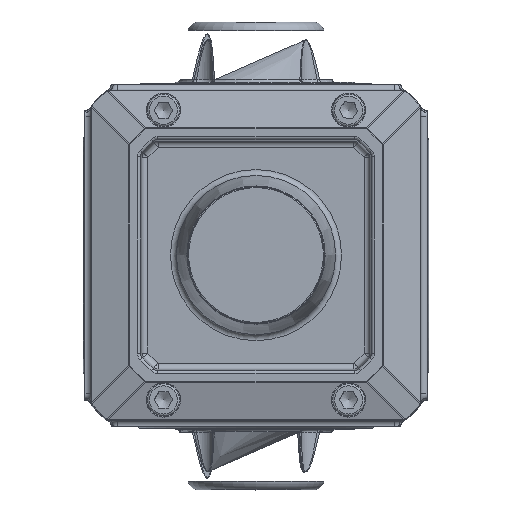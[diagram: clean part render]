
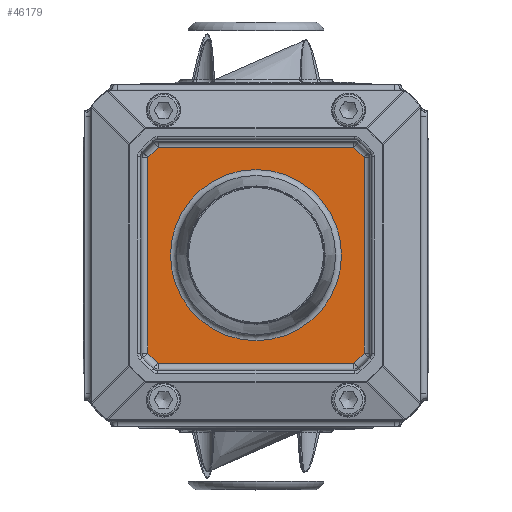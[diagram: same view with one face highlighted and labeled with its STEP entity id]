
A CAD part, top view. The second image highlights one B-rep face of the part: STEP entity #46179.
In plain terms, the highlighted planar face has unit normal (0, 0, 1).
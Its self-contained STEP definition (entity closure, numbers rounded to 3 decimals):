
#590=FACE_BOUND('',#15095,.T.);
#1894=PLANE('',#50499);
#3952=LINE('',#129169,#6474);
#3954=LINE('',#129179,#6476);
#3956=LINE('',#129189,#6478);
#3958=LINE('',#129199,#6480);
#3960=LINE('',#129206,#6482);
#3961=LINE('',#129212,#6483);
#3962=LINE('',#129218,#6484);
#3963=LINE('',#129220,#6485);
#6474=VECTOR('',#60857,10.);
#6476=VECTOR('',#60869,10.);
#6478=VECTOR('',#60881,10.);
#6480=VECTOR('',#60893,10.);
#6482=VECTOR('',#60903,10.);
#6483=VECTOR('',#60912,10.);
#6484=VECTOR('',#60921,10.);
#6485=VECTOR('',#60924,10.);
#8887=CIRCLE('',#50500,42.517);
#12312=FACE_OUTER_BOUND('',#15094,.T.);
#15094=EDGE_LOOP('',(#37717,#37718,#37719,#37720,#37721,#37722,#37723,#37724));
#15095=EDGE_LOOP('',(#37725));
#20275=VERTEX_POINT('',#129159);
#20276=VERTEX_POINT('',#129163);
#20278=VERTEX_POINT('',#129171);
#20281=VERTEX_POINT('',#129181);
#20284=VERTEX_POINT('',#129191);
#20287=VERTEX_POINT('',#129201);
#20288=VERTEX_POINT('',#129208);
#20289=VERTEX_POINT('',#129214);
#20290=VERTEX_POINT('',#129222);
#26204=EDGE_CURVE('',#20275,#20276,#3952,.T.);
#26209=EDGE_CURVE('',#20276,#20278,#3954,.T.);
#26214=EDGE_CURVE('',#20278,#20281,#3956,.T.);
#26219=EDGE_CURVE('',#20281,#20284,#3958,.T.);
#26223=EDGE_CURVE('',#20284,#20287,#3960,.T.);
#26226=EDGE_CURVE('',#20287,#20288,#3961,.T.);
#26229=EDGE_CURVE('',#20288,#20289,#3962,.T.);
#26230=EDGE_CURVE('',#20289,#20275,#3963,.T.);
#26231=EDGE_CURVE('',#20290,#20290,#8887,.T.);
#37717=ORIENTED_EDGE('',*,*,#26230,.F.);
#37718=ORIENTED_EDGE('',*,*,#26229,.F.);
#37719=ORIENTED_EDGE('',*,*,#26226,.F.);
#37720=ORIENTED_EDGE('',*,*,#26223,.F.);
#37721=ORIENTED_EDGE('',*,*,#26219,.F.);
#37722=ORIENTED_EDGE('',*,*,#26214,.F.);
#37723=ORIENTED_EDGE('',*,*,#26209,.F.);
#37724=ORIENTED_EDGE('',*,*,#26204,.F.);
#37725=ORIENTED_EDGE('',*,*,#26231,.F.);
#46179=ADVANCED_FACE('',(#12312,#590),#1894,.T.);
#50499=AXIS2_PLACEMENT_3D('',#129221,#60925,#60926);
#50500=AXIS2_PLACEMENT_3D('',#129223,#60927,#60928);
#60857=DIRECTION('',(0.707,0.707,0.));
#60869=DIRECTION('',(1.,0.,0.));
#60881=DIRECTION('',(0.707,-0.707,0.));
#60893=DIRECTION('',(0.,-1.,0.));
#60903=DIRECTION('',(-0.707,-0.707,0.));
#60912=DIRECTION('',(-1.,0.,0.));
#60921=DIRECTION('',(-0.707,0.707,0.));
#60924=DIRECTION('',(0.,1.,0.));
#60925=DIRECTION('center_axis',(0.,0.,1.));
#60926=DIRECTION('ref_axis',(-1.,0.,0.));
#60927=DIRECTION('center_axis',(0.,0.,1.));
#60928=DIRECTION('ref_axis',(1.,0.,0.));
#129159=CARTESIAN_POINT('',(-53.701,48.661,156.5));
#129163=CARTESIAN_POINT('',(-48.661,53.701,156.5));
#129169=CARTESIAN_POINT('',(-49.365,52.997,156.5));
#129171=CARTESIAN_POINT('',(48.661,53.701,156.5));
#129179=CARTESIAN_POINT('',(25.117,53.701,156.5));
#129181=CARTESIAN_POINT('',(53.701,48.661,156.5));
#129189=CARTESIAN_POINT('',(52.997,49.365,156.5));
#129191=CARTESIAN_POINT('',(53.701,-48.661,156.5));
#129199=CARTESIAN_POINT('',(53.701,-25.117,156.5));
#129201=CARTESIAN_POINT('',(48.661,-53.701,156.5));
#129206=CARTESIAN_POINT('',(49.365,-52.997,156.5));
#129208=CARTESIAN_POINT('',(-48.661,-53.701,156.5));
#129212=CARTESIAN_POINT('',(-25.117,-53.701,156.5));
#129214=CARTESIAN_POINT('',(-53.701,-48.661,156.5));
#129218=CARTESIAN_POINT('',(-52.997,-49.365,156.5));
#129220=CARTESIAN_POINT('',(-53.701,25.117,156.5));
#129221=CARTESIAN_POINT('Origin',(0.,0.,
156.5));
#129222=CARTESIAN_POINT('',(-42.517,0.,156.5));
#129223=CARTESIAN_POINT('Origin',(0.,0.,156.5));
